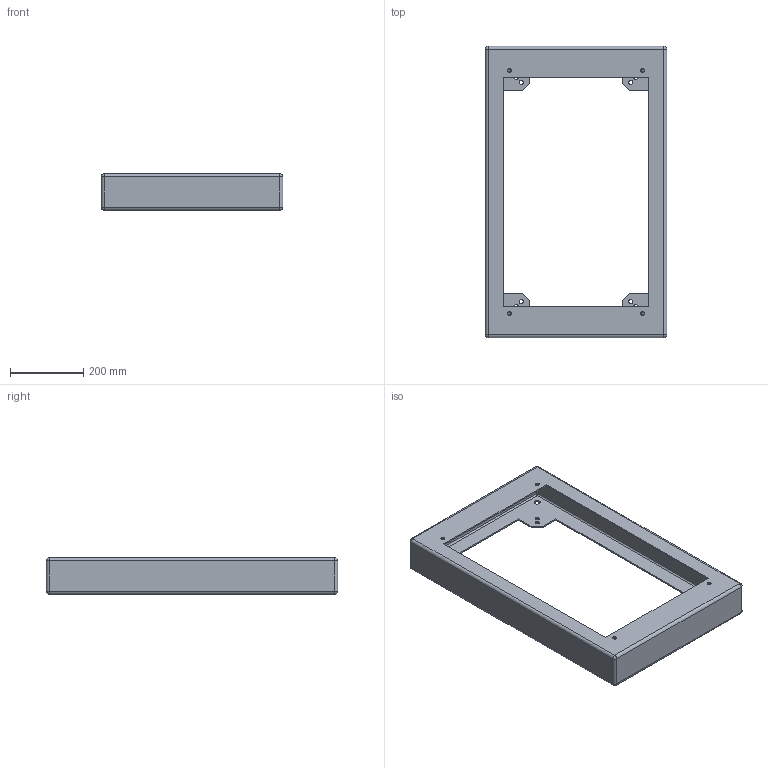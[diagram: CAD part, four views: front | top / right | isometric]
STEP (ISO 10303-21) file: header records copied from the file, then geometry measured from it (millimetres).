
FILE_DESCRIPTION(('STEP AP242'), '1');
FILE_NAME('2810 Öîêîëü ñåéñìîñòîéêèé', '', ('UNSPECIFIED'), ('UNSPECIFIED'), 'C3D Converter', 'C3D Toolkit', '');
FILE_SCHEMA(('AP242_MANAGED_MODEL_BASED_3D_ENGINEERING_MIM_LF { 1 0 10303 442 1 1 4 }'));
Length unit declared in the file: millimetre
Products named in the file (1): 2810.80.50
Bounding box: 497 x 797 x 100 mm (x, y, z)
Volume: 2034062.1 mm3; surface area: 1036422.4 mm2
Topology: 1 solids, 1 shells, 141 faces, 338 edges, 193 vertices
Faces by surface type: plane 64, cylinder 44, cone 17, sphere 16
Full cylindrical faces by diameter (mm): 8.376 x4, 11 x12, 16 x4
Entity records: 6792 total; most frequent: CARTESIAN_POINT 2556, DIRECTION 626, ORIENTED_EDGE 570, EDGE_CURVE 285, AXIS2_PLACEMENT_3D 247, EDGE_LOOP 222, VERTEX_POINT 193, FACE_BOUND 156
